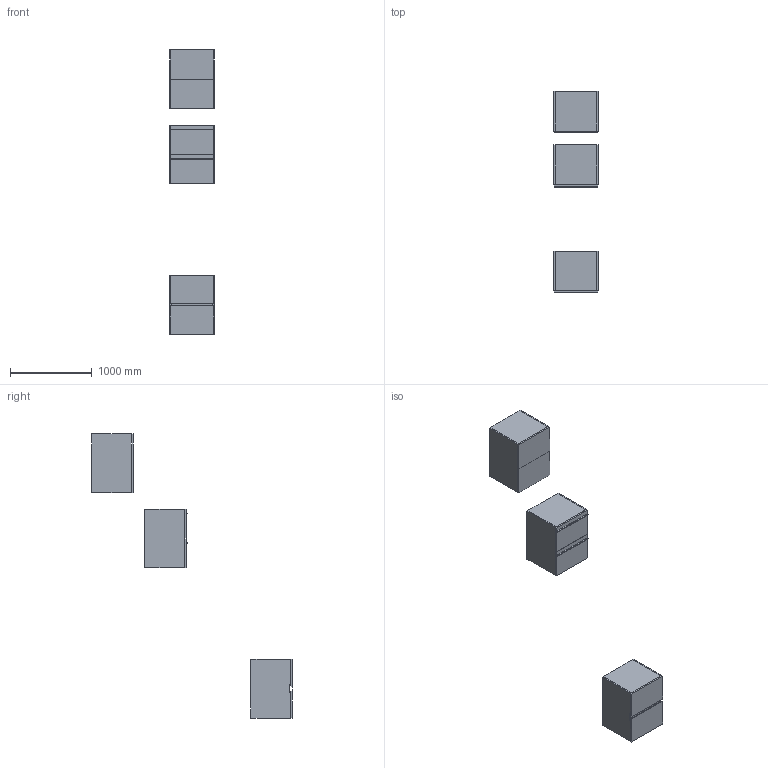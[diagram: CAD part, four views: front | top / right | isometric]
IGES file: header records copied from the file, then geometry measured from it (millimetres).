
Start section: Data from Parasolid IGES Translator 19.0.9, Copyright(c) 2006 Siemens PL M Software. All Rights Reserved.
Global section: file name: noorth-SI-H 72 D 51 W 54_8661.igs; native system: By Siemens PLM Incorporated; preprocessor: XPlus GENERIC/IGES 19.0.9; author: Noname; organization: Noname; date: 20200601.122054; units: metre
Bounding box: 540 x 2458 x 3480.01 mm (x, y, z)
Volume: 82281534.5 mm3; surface area: 12385433 mm2
Topology: 24 solids, 24 shells, 248 faces, 544 edges, 324 vertices
Faces by surface type: plane 164, extrusion 36, bspline 32, cylinder 16
